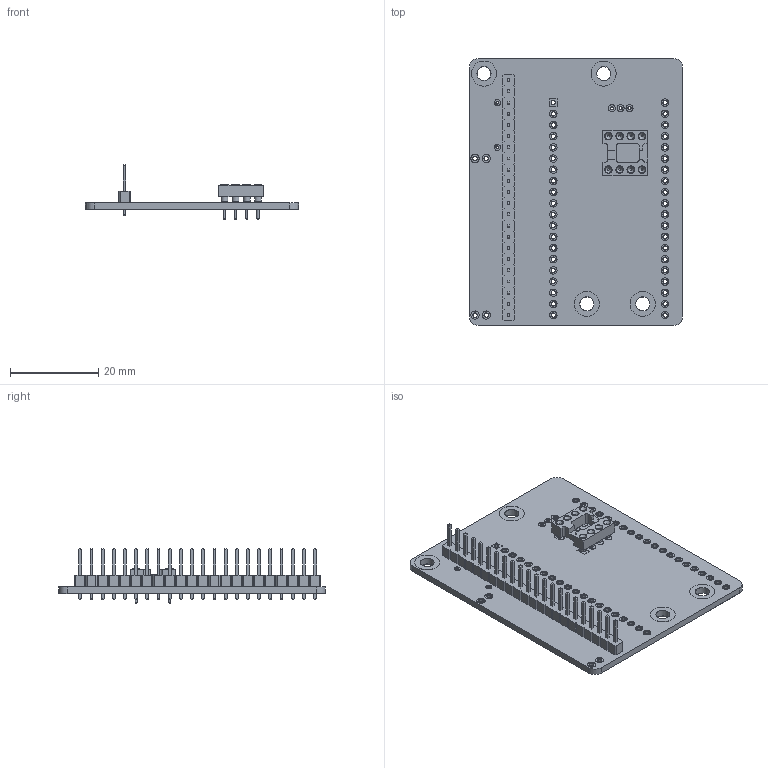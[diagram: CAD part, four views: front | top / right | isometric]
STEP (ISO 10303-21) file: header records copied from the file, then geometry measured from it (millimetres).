
FILE_DESCRIPTION(('KiCad electronic assembly'),'2;1');
FILE_NAME('longLCD_ESP32.step','2026-05-31T10:10:11',('Pcbnew'),('Kicad' ),'Open CASCADE STEP processor 7.8','KiCad to STEP converter', 'Unknown');
FILE_SCHEMA(('AUTOMOTIVE_DESIGN { 1 0 10303 214 1 1 1 1 }'));
Length unit declared in the file: millimetre
Products named in the file (6): longLCD_ESP32 1; DIP-8_W7.62mm_Socket; PinHeader_1x22_P2.54mm_Vertical; longLCD_ESP32_copper; longLCD_ESP32_pad; longLCD_ESP32_PCB
Assembly tree (5 placements, depth 2):
  longLCD_ESP32 1
    DIP-8_W7.62mm_Socket
    PinHeader_1x22_P2.54mm_Vertical
    longLCD_ESP32_copper
    longLCD_ESP32_pad
    longLCD_ESP32_PCB
Bounding box: 48.41 x 60.6 x 12.32 mm (x, y, z)
Volume: 4983.2 mm3; surface area: 11202.5 mm2
Topology: 276 solids, 276 shells, 2306 faces, 4818 edges, 3147 vertices
Faces by surface type: plane 1475, cylinder 807, cone 24
Full cylindrical faces by diameter (mm): 0.508 x16, 0.65 x15, 0.675 x5, 0.7 x10, 0.75 x24, 0.775 x8, 0.8 x16, 0.95 x186, 0.966 x12, 0.975 x33, 0.991 x3, 1 x124, 1.016 x8, 1.4 x4, 1.524 x8, 1.6 x6, 1.7 x120, 1.724 x8, 1.88 x8, 3.15 x12, 3.2 x8, 5.7 x8
Entity records: 69015 total; most frequent: DIRECTION 11088, CARTESIAN_POINT 10277, ORIENTED_EDGE 9636, EDGE_CURVE 4818, AXIS2_PLACEMENT_3D 3958, LINE 3172, VECTOR 3172, FACE_BOUND 3153
